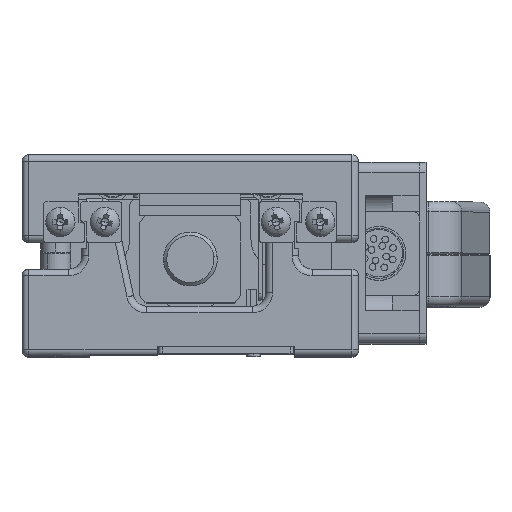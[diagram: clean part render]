
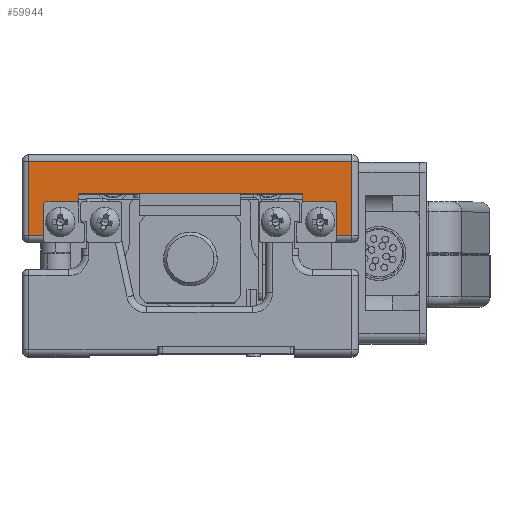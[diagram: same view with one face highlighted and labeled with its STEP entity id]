
A CAD part, top view. The second image highlights one B-rep face of the part: STEP entity #59944.
In plain terms, the highlighted planar face has unit normal (0, 0, 1).
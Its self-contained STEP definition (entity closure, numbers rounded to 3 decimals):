
#51 = ORIENTED_EDGE ( 'NONE', *, *, #26869, .F. ) ;
#1021 = CARTESIAN_POINT ( 'NONE',  ( -16.6, 22.866, 27.5 ) ) ;
#1327 = CIRCLE ( 'NONE', #56879, 0.3 ) ;
#2685 = VECTOR ( 'NONE', #54215, 1000. ) ;
#3223 = CARTESIAN_POINT ( 'NONE',  ( 16.85, 22.7, 27.5 ) ) ;
#3589 = LINE ( 'NONE', #17825, #15443 ) ;
#3799 = DIRECTION ( 'NONE',  ( 1., 0., 0. ) ) ;
#6094 = DIRECTION ( 'NONE',  ( -1., 0., 0. ) ) ;
#6514 = ORIENTED_EDGE ( 'NONE', *, *, #60807, .F. ) ;
#9540 = VERTEX_POINT ( 'NONE', #124639 ) ;
#10255 = VERTEX_POINT ( 'NONE', #29724 ) ;
#10622 = EDGE_CURVE ( 'NONE', #47489, #54963, #200777, .T. ) ;
#11093 = EDGE_CURVE ( 'NONE', #155793, #119789, #48247, .T. ) ;
#12653 = EDGE_CURVE ( 'NONE', #74558, #9540, #35014, .T. ) ;
#13585 = DIRECTION ( 'NONE',  ( -1., 0., 0. ) ) ;
#14316 = CARTESIAN_POINT ( 'NONE',  ( -25., 18., 27.5 ) ) ;
#14764 = CARTESIAN_POINT ( 'NONE',  ( 24., 33.3, 27.5 ) ) ;
#15443 = VECTOR ( 'NONE', #79822, 1000. ) ;
#16369 = CIRCLE ( 'NONE', #155822, 0.3 ) ;
#16619 = ORIENTED_EDGE ( 'NONE', *, *, #27519, .T. ) ;
#17825 = CARTESIAN_POINT ( 'NONE',  ( -16.2, 24.2, 27.5 ) ) ;
#19310 = CARTESIAN_POINT ( 'NONE',  ( 21.45, 23., 27.5 ) ) ;
#20695 = DIRECTION ( 'NONE',  ( 1., 0., 0. ) ) ;
#21947 = AXIS2_PLACEMENT_3D ( 'NONE', #109887, #47974, #169849 ) ;
#23970 = ORIENTED_EDGE ( 'NONE', *, *, #10622, .T. ) ;
#25999 = ORIENTED_EDGE ( 'NONE', *, *, #137887, .F. ) ;
#26869 = EDGE_CURVE ( 'NONE', #74558, #135069, #54995, .T. ) ;
#27392 = DIRECTION ( 'NONE',  ( -1., 0., 0. ) ) ;
#27519 = EDGE_CURVE ( 'NONE', #10255, #164177, #80034, .T. ) ;
#29724 = CARTESIAN_POINT ( 'NONE',  ( -21.45, 23., 27.5 ) ) ;
#29743 = LINE ( 'NONE', #30760, #82854 ) ;
#29869 = DIRECTION ( 'NONE',  ( 1., 0., 0. ) ) ;
#30760 = CARTESIAN_POINT ( 'NONE',  ( 21.75, 23., 27.5 ) ) ;
#31006 = DIRECTION ( 'NONE',  ( 0., 1., 0. ) ) ;
#31774 = ORIENTED_EDGE ( 'NONE', *, *, #178291, .T. ) ;
#32263 = CARTESIAN_POINT ( 'NONE',  ( 21.75, 22.7, 27.5 ) ) ;
#32731 = FACE_OUTER_BOUND ( 'NONE', #49492, .T. ) ;
#32742 = VECTOR ( 'NONE', #57985, 1000. ) ;
#35014 = CIRCLE ( 'NONE', #112869, 0.3 ) ;
#36588 = LINE ( 'NONE', #67087, #189945 ) ;
#36992 = LINE ( 'NONE', #100909, #2685 ) ;
#37257 = ORIENTED_EDGE ( 'NONE', *, *, #49712, .F. ) ;
#37311 = CARTESIAN_POINT ( 'NONE',  ( -21.75, 18., 27.5 ) ) ;
#37654 = VECTOR ( 'NONE', #140350, 1000. ) ;
#47085 = VECTOR ( 'NONE', #27392, 1000. ) ;
#47489 = VERTEX_POINT ( 'NONE', #61919 ) ;
#47974 = DIRECTION ( 'NONE',  ( 0., 0., -1. ) ) ;
#48247 = LINE ( 'NONE', #14764, #135619 ) ;
#49181 = CARTESIAN_POINT ( 'NONE',  ( -16.6, 24.2, 27.5 ) ) ;
#49487 = DIRECTION ( 'NONE',  ( 0., -1., 0. ) ) ;
#49492 = EDGE_LOOP ( 'NONE', ( #31774, #92397, #16619, #102407, #6514, #96162, #51, #158509, #25999, #59065, #37257, #81136, #161961, #58260, #23970, #109789 ) ) ;
#49701 = EDGE_CURVE ( 'NONE', #164177, #61364, #1327, .T. ) ;
#49712 = EDGE_CURVE ( 'NONE', #121764, #107297, #29743, .T. ) ;
#50943 = DIRECTION ( 'NONE',  ( -1., 0., 0. ) ) ;
#54215 = DIRECTION ( 'NONE',  ( 0., -1., 0. ) ) ;
#54963 = VERTEX_POINT ( 'NONE', #144915 ) ;
#54995 = LINE ( 'NONE', #101692, #32742 ) ;
#55012 = LINE ( 'NONE', #14316, #139483 ) ;
#56879 = AXIS2_PLACEMENT_3D ( 'NONE', #169871, #153630, #186092 ) ;
#57851 = LINE ( 'NONE', #119812, #47085 ) ;
#57985 = DIRECTION ( 'NONE',  ( 0., 1., 0. ) ) ;
#58260 = ORIENTED_EDGE ( 'NONE', *, *, #173366, .T. ) ;
#59065 = ORIENTED_EDGE ( 'NONE', *, *, #83336, .T. ) ;
#59944 = ADVANCED_FACE ( 'NONE', ( #32731 ), #138399, .F. ) ;
#60156 = LINE ( 'NONE', #78426, #37654 ) ;
#60807 = EDGE_CURVE ( 'NONE', #109680, #61364, #36992, .T. ) ;
#61364 = VERTEX_POINT ( 'NONE', #1021 ) ;
#61919 = CARTESIAN_POINT ( 'NONE',  ( -24., 29., 27.5 ) ) ;
#67087 = CARTESIAN_POINT ( 'NONE',  ( -25., 29., 27.5 ) ) ;
#68191 = DIRECTION ( 'NONE',  ( 0., 0., -1. ) ) ;
#68422 = LINE ( 'NONE', #112133, #110268 ) ;
#72724 = VERTEX_POINT ( 'NONE', #37311 ) ;
#74558 = VERTEX_POINT ( 'NONE', #88316 ) ;
#77489 = DIRECTION ( 'NONE',  ( 0., 1., 0. ) ) ;
#78426 = CARTESIAN_POINT ( 'NONE',  ( -21.75, 23., 27.5 ) ) ;
#78656 = EDGE_CURVE ( 'NONE', #86167, #10255, #155260, .T. ) ;
#79822 = DIRECTION ( 'NONE',  ( 1., 0., 0. ) ) ;
#80034 = LINE ( 'NONE', #97235, #185226 ) ;
#81136 = ORIENTED_EDGE ( 'NONE', *, *, #142892, .T. ) ;
#82854 = VECTOR ( 'NONE', #77489, 1000. ) ;
#83336 = EDGE_CURVE ( 'NONE', #145448, #107297, #16369, .T. ) ;
#86167 = VERTEX_POINT ( 'NONE', #132145 ) ;
#88316 = CARTESIAN_POINT ( 'NONE',  ( 16.6, 22.866, 27.5 ) ) ;
#92397 = ORIENTED_EDGE ( 'NONE', *, *, #78656, .T. ) ;
#95836 = DIRECTION ( 'NONE',  ( 0., 0., -1. ) ) ;
#96162 = ORIENTED_EDGE ( 'NONE', *, *, #141178, .T. ) ;
#97235 = CARTESIAN_POINT ( 'NONE',  ( -21.75, 23., 27.5 ) ) ;
#100909 = CARTESIAN_POINT ( 'NONE',  ( -16.6, 17., 27.5 ) ) ;
#101692 = CARTESIAN_POINT ( 'NONE',  ( 16.6, 17., 27.5 ) ) ;
#102407 = ORIENTED_EDGE ( 'NONE', *, *, #49701, .T. ) ;
#106695 = DIRECTION ( 'NONE',  ( 1., 0., 0. ) ) ;
#107297 = VERTEX_POINT ( 'NONE', #32263 ) ;
#109680 = VERTEX_POINT ( 'NONE', #49181 ) ;
#109789 = ORIENTED_EDGE ( 'NONE', *, *, #119672, .T. ) ;
#109887 = CARTESIAN_POINT ( 'NONE',  ( -25., 33.3, 27.5 ) ) ;
#110268 = VECTOR ( 'NONE', #20695, 1000. ) ;
#112133 = CARTESIAN_POINT ( 'NONE',  ( -25., 18., 27.5 ) ) ;
#112869 = AXIS2_PLACEMENT_3D ( 'NONE', #3223, #68191, #50943 ) ;
#118952 = CARTESIAN_POINT ( 'NONE',  ( 21.75, 18., 27.5 ) ) ;
#119672 = EDGE_CURVE ( 'NONE', #54963, #72724, #68422, .T. ) ;
#119789 = VERTEX_POINT ( 'NONE', #121891 ) ;
#119812 = CARTESIAN_POINT ( 'NONE',  ( 21.75, 23., 27.5 ) ) ;
#121764 = VERTEX_POINT ( 'NONE', #118952 ) ;
#121891 = CARTESIAN_POINT ( 'NONE',  ( 24., 29., 27.5 ) ) ;
#124639 = CARTESIAN_POINT ( 'NONE',  ( 16.85, 23., 27.5 ) ) ;
#132145 = CARTESIAN_POINT ( 'NONE',  ( -21.75, 22.7, 27.5 ) ) ;
#135069 = VERTEX_POINT ( 'NONE', #162404 ) ;
#135619 = VECTOR ( 'NONE', #31006, 1000. ) ;
#137887 = EDGE_CURVE ( 'NONE', #145448, #9540, #57851, .T. ) ;
#138399 = PLANE ( 'NONE',  #21947 ) ;
#139483 = VECTOR ( 'NONE', #106695, 1000. ) ;
#140350 = DIRECTION ( 'NONE',  ( 0., 1., 0. ) ) ;
#141178 = EDGE_CURVE ( 'NONE', #109680, #135069, #3589, .T. ) ;
#142892 = EDGE_CURVE ( 'NONE', #121764, #155793, #55012, .T. ) ;
#144915 = CARTESIAN_POINT ( 'NONE',  ( -24., 18., 27.5 ) ) ;
#145448 = VERTEX_POINT ( 'NONE', #19310 ) ;
#152683 = DIRECTION ( 'NONE',  ( 0., 0., -1. ) ) ;
#153630 = DIRECTION ( 'NONE',  ( 0., 0., -1. ) ) ;
#155260 = CIRCLE ( 'NONE', #164966, 0.3 ) ;
#155710 = CARTESIAN_POINT ( 'NONE',  ( 21.45, 22.7, 27.5 ) ) ;
#155793 = VERTEX_POINT ( 'NONE', #188180 ) ;
#155822 = AXIS2_PLACEMENT_3D ( 'NONE', #155710, #152683, #13585 ) ;
#158509 = ORIENTED_EDGE ( 'NONE', *, *, #12653, .T. ) ;
#161961 = ORIENTED_EDGE ( 'NONE', *, *, #11093, .T. ) ;
#162404 = CARTESIAN_POINT ( 'NONE',  ( 16.6, 24.2, 27.5 ) ) ;
#164177 = VERTEX_POINT ( 'NONE', #171821 ) ;
#164966 = AXIS2_PLACEMENT_3D ( 'NONE', #171006, #95836, #29869 ) ;
#169849 = DIRECTION ( 'NONE',  ( -1., 0., 0. ) ) ;
#169871 = CARTESIAN_POINT ( 'NONE',  ( -16.85, 22.7, 27.5 ) ) ;
#169992 = VECTOR ( 'NONE', #49487, 1000. ) ;
#171006 = CARTESIAN_POINT ( 'NONE',  ( -21.45, 22.7, 27.5 ) ) ;
#171821 = CARTESIAN_POINT ( 'NONE',  ( -16.85, 23., 27.5 ) ) ;
#173366 = EDGE_CURVE ( 'NONE', #119789, #47489, #36588, .T. ) ;
#178291 = EDGE_CURVE ( 'NONE', #72724, #86167, #60156, .T. ) ;
#185226 = VECTOR ( 'NONE', #3799, 1000. ) ;
#185573 = CARTESIAN_POINT ( 'NONE',  ( -24., 33.3, 27.5 ) ) ;
#186092 = DIRECTION ( 'NONE',  ( 1., 0., 0. ) ) ;
#188180 = CARTESIAN_POINT ( 'NONE',  ( 24., 18., 27.5 ) ) ;
#189945 = VECTOR ( 'NONE', #6094, 1000. ) ;
#200777 = LINE ( 'NONE', #185573, #169992 ) ;
